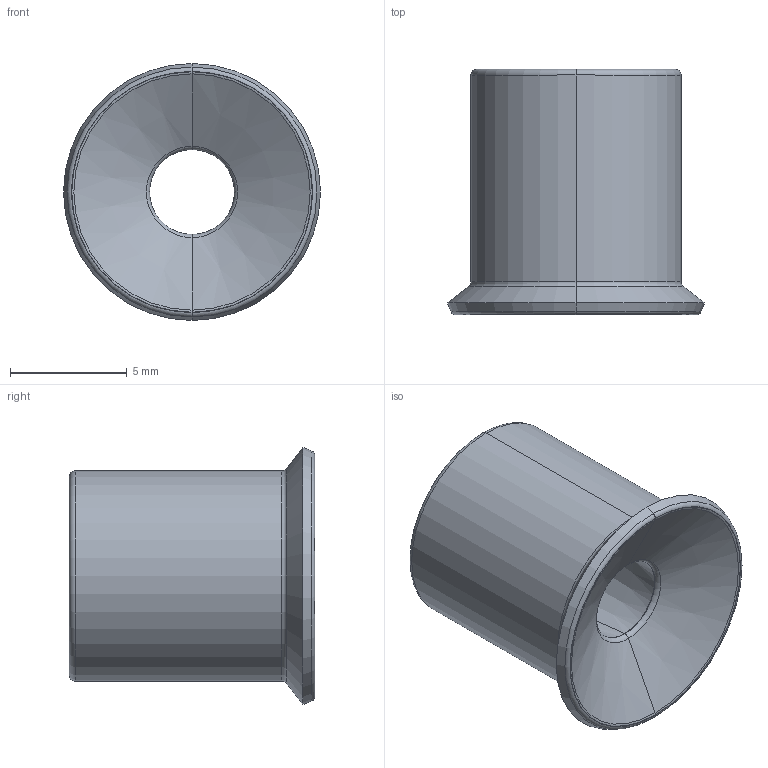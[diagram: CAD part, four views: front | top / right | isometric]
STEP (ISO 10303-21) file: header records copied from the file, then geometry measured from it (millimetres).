
FILE_DESCRIPTION (( 'STEP AP203' ), '1' );
FILE_NAME ('9_11--A.STEP', '2017-09-21T15:07:24', ( '' ), ( '' ), 'SwSTEP 2.0', 'SolidWorks 2016', '' );
FILE_SCHEMA (( 'CONFIG_CONTROL_DESIGN' ));
Length unit declared in the file: millimetre
Products named in the file (1): 9_11--A
Bounding box: 11 x 10.5 x 11 mm (x, y, z)
Volume: 509.5 mm3; surface area: 573.2 mm2
Topology: 1 solids, 1 shells, 29 faces, 58 edges, 32 vertices
Faces by surface type: torus 14, cone 8, cylinder 4, plane 3
Entity records: 839 total; most frequent: DIRECTION 164, CARTESIAN_POINT 120, ORIENTED_EDGE 116, AXIS2_PLACEMENT_3D 76, EDGE_CURVE 58, CIRCLE 46, EDGE_LOOP 32, VERTEX_POINT 32
